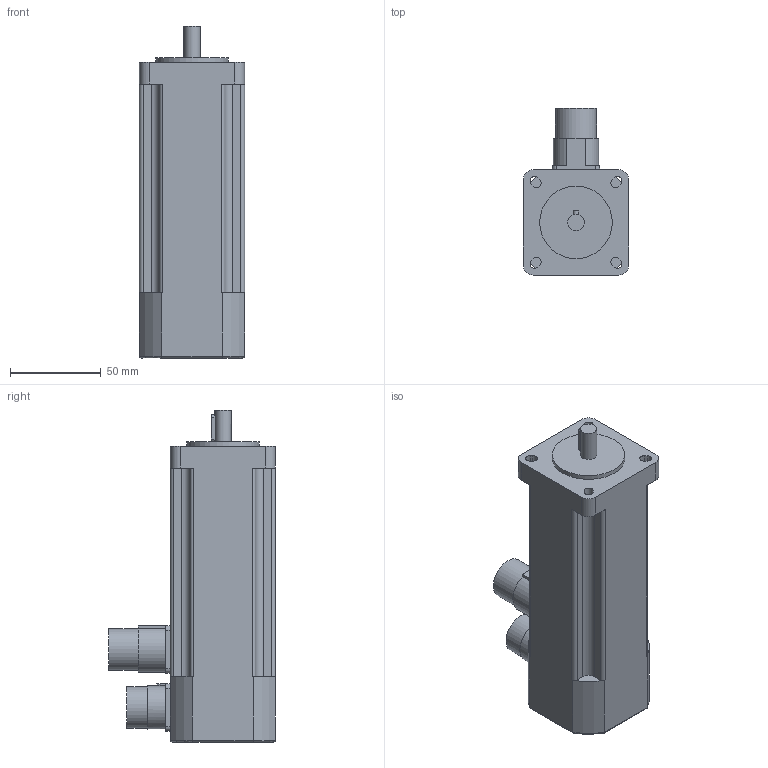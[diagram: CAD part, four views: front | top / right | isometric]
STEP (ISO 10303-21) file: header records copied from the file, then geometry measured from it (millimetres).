
FILE_DESCRIPTION(/* description */ (''),/* implementation_level */ '2;1');
FILE_NAME(/* name */ '\\Lafnas01\disegni\Archivi Lafert\3D\CAD 3D\MODELLI\Assiemi clienti\Serad\Modelli 3D Serad\B28I\Resolver\Res Without Brake\B28D8Ixx4A050033.ipt.stp',/* time_stamp */ '2015-09-07T10:48:18+02:00',/* author */ ('Pastrello Ylenia'),/* organization */ (''),/* preprocessor_version */ 'ST-DEVELOPER v15.6',/* originating_system */ 'Autodesk Inventor 2015',/* authorisation */ '');
FILE_SCHEMA (('AUTOMOTIVE_DESIGN { 1 0 10303 214 3 1 1 }'));
Length unit declared in the file: millimetre
Products named in the file (1): B28D8Ixx4A050033
Bounding box: 58 x 92 x 183 mm (x, y, z)
Volume: 513757.2 mm3; surface area: 48528.3 mm2
Topology: 1 solids, 1 shells, 133 faces, 356 edges, 231 vertices
Faces by surface type: plane 71, cylinder 58, torus 4
Full cylindrical faces by diameter (mm): 9 x1, 22.7 x2, 24 x1, 40 x1
Entity records: 4247 total; most frequent: CARTESIAN_POINT 847, DIRECTION 719, ORIENTED_EDGE 696, EDGE_CURVE 347, AXIS2_PLACEMENT_3D 250, VERTEX_POINT 228, LINE 219, VECTOR 219
